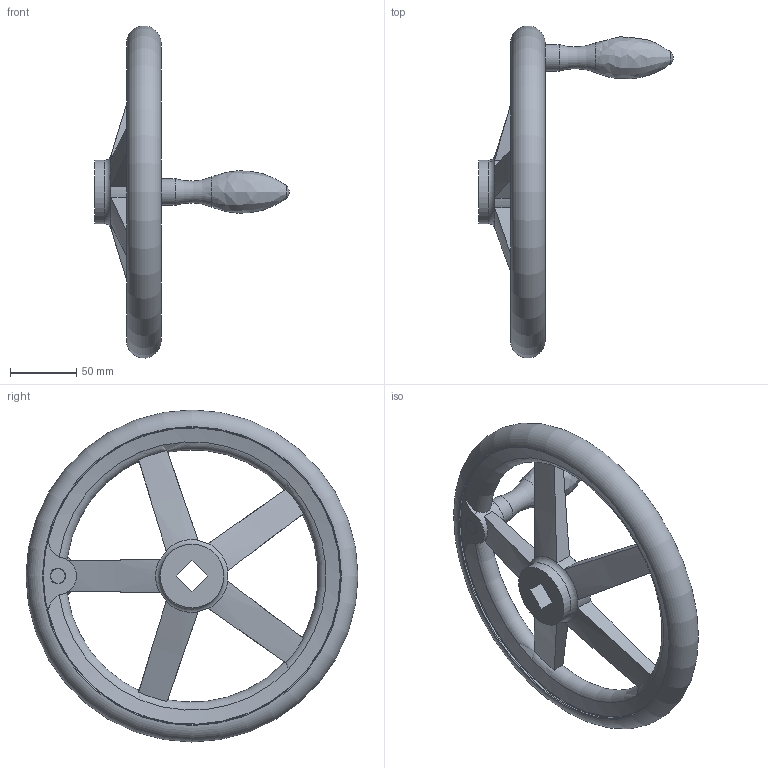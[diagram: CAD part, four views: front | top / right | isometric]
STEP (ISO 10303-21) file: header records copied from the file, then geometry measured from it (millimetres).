
FILE_DESCRIPTION( ( 'STEP AP203' ), '1' );
FILE_NAME( 'C:/Temp/Ganter_Step_05_03_2020/data/1_3/din_950/din_950_v/din_950_v_f/Handwheel DIN 950-AL-250-V17-F.stp', '2020-03-05T10:31:47', ( 'License CC BY-ND 4.0' ), ( 'CADENAS' ), ' ', 'PARTsolutions', ' ' );
FILE_SCHEMA( ( 'CONFIG_CONTROL_DESIGN' ) );
Length unit declared in the file: millimetre
Products named in the file (1): _Handwheel DIN 950-AL-250-V17-F
Bounding box: 146.5 x 249.94 x 249.94 mm (x, y, z)
Volume: 563115.7 mm3; surface area: 102028.3 mm2
Topology: 1 solids, 1 shells, 59 faces, 173 edges, 112 vertices
Faces by surface type: plane 19, cylinder 15, torus 13, cone 10, sphere 1, bspline 1
Full cylindrical faces by diameter (mm): 20 x1, 48 x2, 224 x2
Entity records: 2379 total; most frequent: CARTESIAN_POINT 942, ORIENTED_EDGE 294, DIRECTION 260, EDGE_CURVE 147, AXIS2_PLACEMENT_3D 116, VERTEX_POINT 106, EDGE_LOOP 85, FACE_OUTER_BOUND 73
